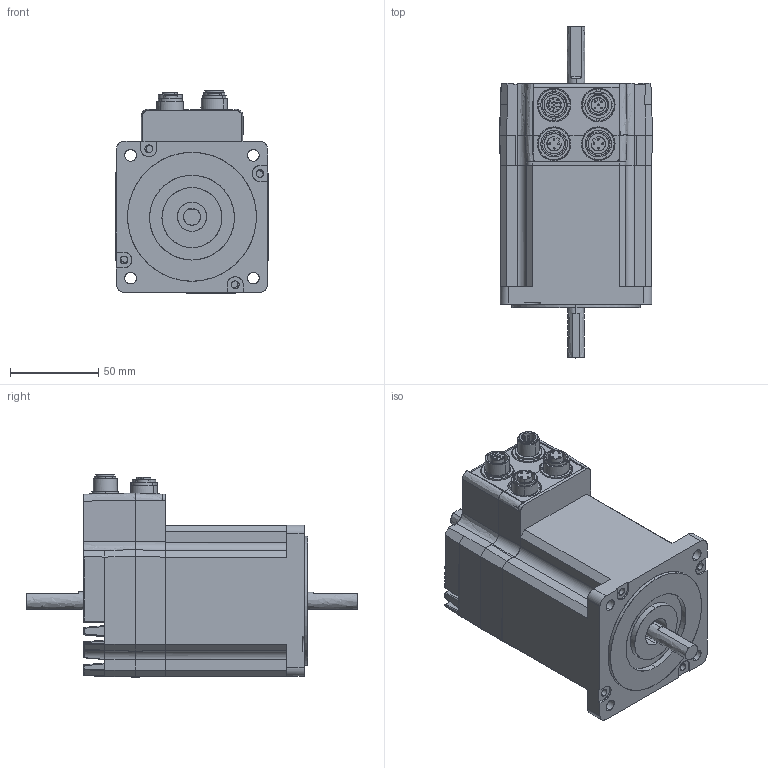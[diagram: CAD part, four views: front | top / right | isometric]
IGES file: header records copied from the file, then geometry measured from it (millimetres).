
Start section: Comment
Global section: file name: MIS341C13xxxx85.igs; native system:  By UGS Corp.; preprocessor: XPlus GENERIC/IGES 3.0; author: Author; organization: Title; date: 20160502.172356; units: millimetre
Bounding box: 86.5 x 188.1 x 114.56 mm (x, y, z)
Surface area: 104981.6 mm2 (no closed solid volume)
Topology: 0 solids, 0 shells, 1161 faces, 5680 edges, 5674 vertices
Faces by surface type: bspline 1161
